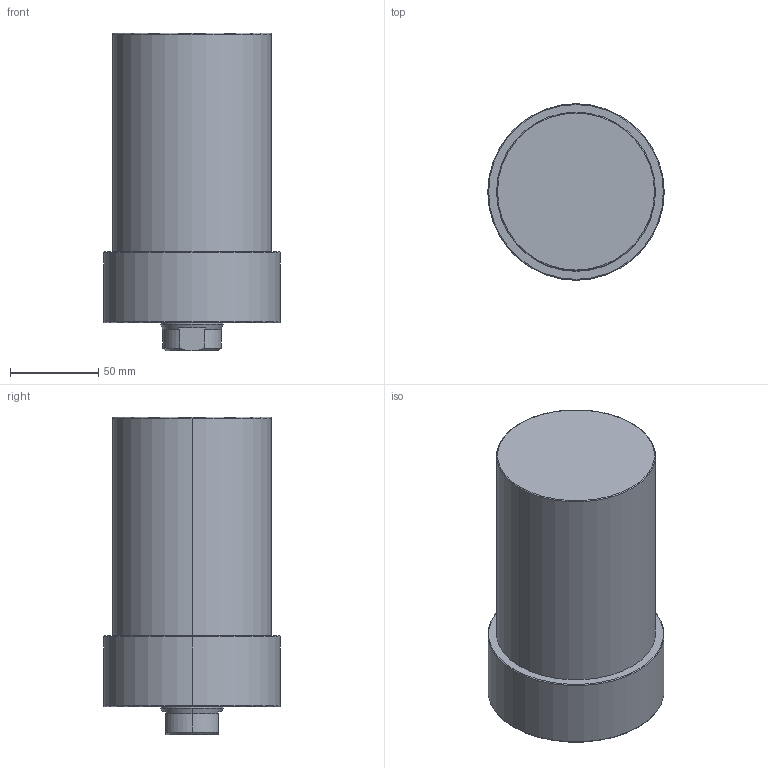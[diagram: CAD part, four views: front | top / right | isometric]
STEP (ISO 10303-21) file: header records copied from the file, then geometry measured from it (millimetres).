
FILE_DESCRIPTION (( 'STEP AP203' ), '1' );
FILE_NAME ('CLLU-090GA-080.STEP', '2020-01-13T03:33:13', ( '' ), ( '' ), 'SwSTEP 2.0', 'SolidWorks 2015', '' );
FILE_SCHEMA (( 'CONFIG_CONTROL_DESIGN' ));
Length unit declared in the file: millimetre
Products named in the file (1): CLLU-090GA-080
Bounding box: 100 x 100 x 180 mm (x, y, z)
Volume: 1096751.1 mm3; surface area: 70537.2 mm2
Topology: 1 solids, 1 shells, 64 faces, 143 edges, 80 vertices
Faces by surface type: cone 25, cylinder 23, plane 10, torus 6
Entity records: 1809 total; most frequent: DIRECTION 330, CARTESIAN_POINT 322, ORIENTED_EDGE 266, AXIS2_PLACEMENT_3D 140, EDGE_CURVE 133, VERTEX_POINT 80, CIRCLE 75, EDGE_LOOP 73
